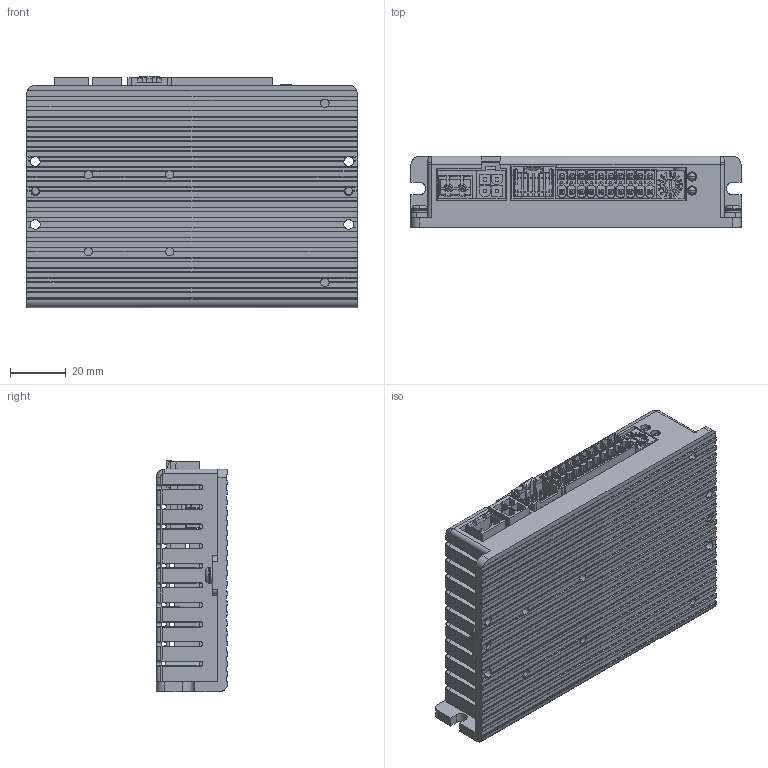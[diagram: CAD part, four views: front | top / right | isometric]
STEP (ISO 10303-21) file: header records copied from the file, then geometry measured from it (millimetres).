
FILE_DESCRIPTION (( 'STEP AP203' ), '1' );
FILE_NAME ('CS1-D507S_3D.STEP', '2019-12-27T03:58:42', ( 'hwtest' ), ( 'Microsoft' ), 'SwSTEP 2.0', 'SolidWorks 2014', '' );
FILE_SCHEMA (( 'CONFIG_CONTROL_DESIGN' ));
Length unit declared in the file: millimetre
Products named in the file (1): CS1-D507S_3D
Bounding box: 118 x 25.5 x 82.62 mm (x, y, z)
Volume: 81973 mm3; surface area: 78179.7 mm2
Topology: 2 solids, 4 shells, 3804 faces, 10883 edges, 7119 vertices
Faces by surface type: plane 2689, cylinder 718, cone 251, bspline 146
Entity records: 146615 total; most frequent: CARTESIAN_POINT 59843, ORIENTED_EDGE 21580, DIRECTION 12171, EDGE_CURVE 10790, VERTEX_POINT 7119, B_SPLINE_CURVE_WITH_KNOTS 5925, VECTOR 4811, LINE 4811
